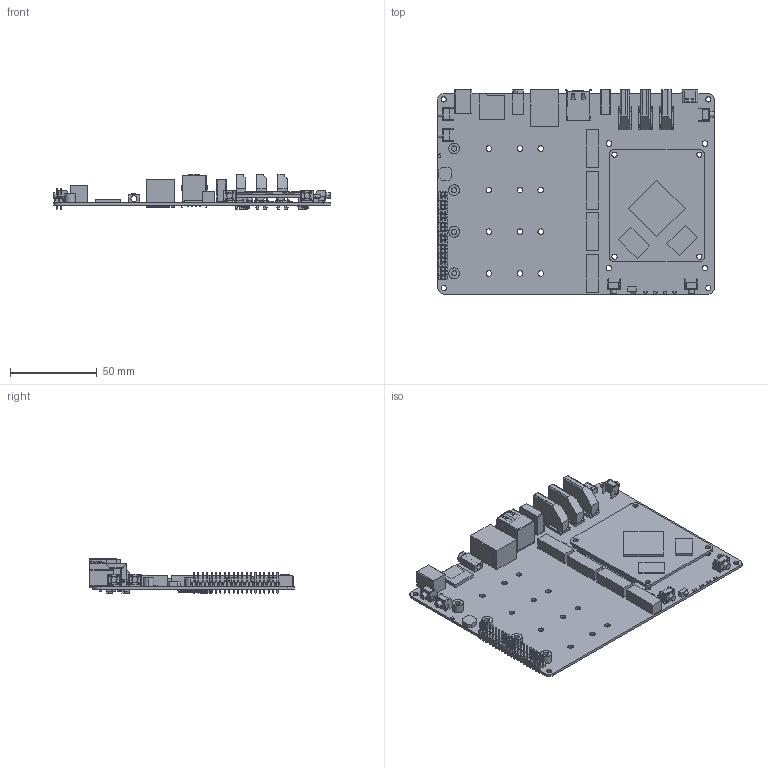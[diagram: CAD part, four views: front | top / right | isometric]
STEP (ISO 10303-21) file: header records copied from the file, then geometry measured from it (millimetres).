
FILE_DESCRIPTION(/* description */ (''),/* implementation_level */ '2;1');
FILE_NAME(/* name */ '202403~1',/* time_stamp */ '2024-03-20T11:56:46+08:00',/* author */ (''),/* organization */ (''),/* preprocessor_version */ 'ST-DEVELOPER v15',/* originating_system */ '',/* authorisation */ '');
FILE_SCHEMA (('AUTOMOTIVE_DESIGN'));
Products named in the file (1): Document
Bounding box: 160 x 118.01 x 20.55 mm (x, y, z)
Volume: 53744.2 mm3; surface area: 75182.3 mm2
Topology: 122 solids, 125 shells, 6655 faces, 18222 edges, 11846 vertices
Faces by surface type: plane 4532, bspline 2123
Entity records: 204593 total; most frequent: CARTESIAN_POINT 87775, ORIENTED_EDGE 35816, EDGE_CURVE 18202, B_SPLINE_CURVE_WITH_KNOTS 15256, VERTEX_POINT 11846, EDGE_LOOP 6923, ADVANCED_FACE 6655, FACE_OUTER_BOUND 6655
